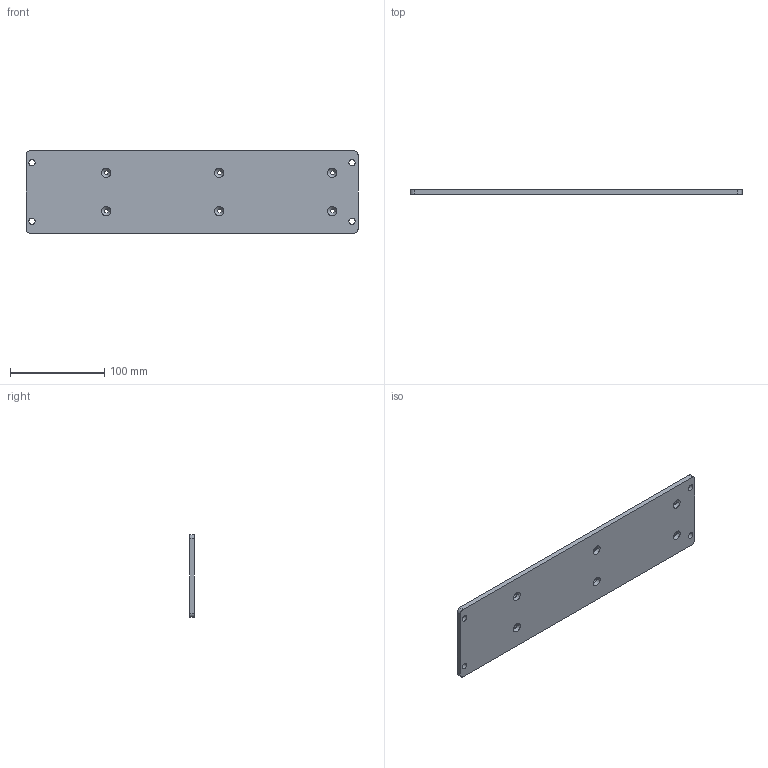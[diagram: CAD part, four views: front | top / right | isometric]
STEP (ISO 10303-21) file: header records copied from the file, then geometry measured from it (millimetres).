
FILE_DESCRIPTION((''),'2;1');
FILE_NAME('CU_PNL_MT_CRIO-903X_LOW_PROFILE','2018-05-24T',('jbuhisan'),(''),'CREO PARAMETRIC BY PTC INC, 2017480','CREO PARAMETRIC BY PTC INC, 2017480','');
FILE_SCHEMA(('AUTOMOTIVE_DESIGN { 1 0 10303 214 1 1 1 1 }'));
Length unit declared in the file: millimetre
Products named in the file (1): CU_PNL_MT_CRIO-903X_LOW_PROFILE
Bounding box: 352.4 x 4.76 x 87.48 mm (x, y, z)
Volume: 145186.3 mm3; surface area: 66036.3 mm2
Topology: 1 solids, 1 shells, 42 faces, 108 edges, 68 vertices
Faces by surface type: cylinder 24, cone 12, plane 6
Entity records: 1882 total; most frequent: DIRECTION 252, CARTESIAN_POINT 220, ORIENTED_EDGE 216, EDGE_CURVE 108, AXIS2_PLACEMENT_3D 102, VERTEX_POINT 68, EDGE_LOOP 62, CIRCLE 60
